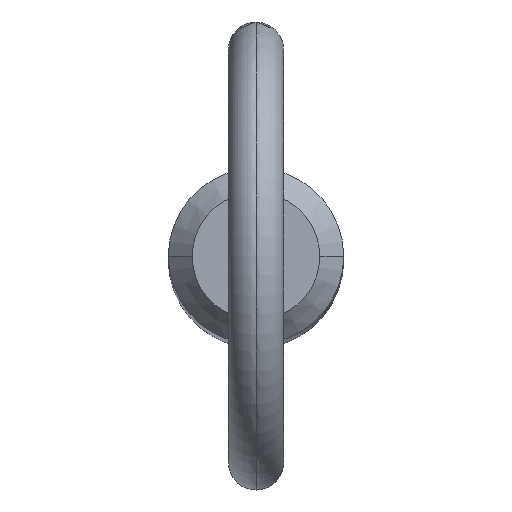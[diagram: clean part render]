
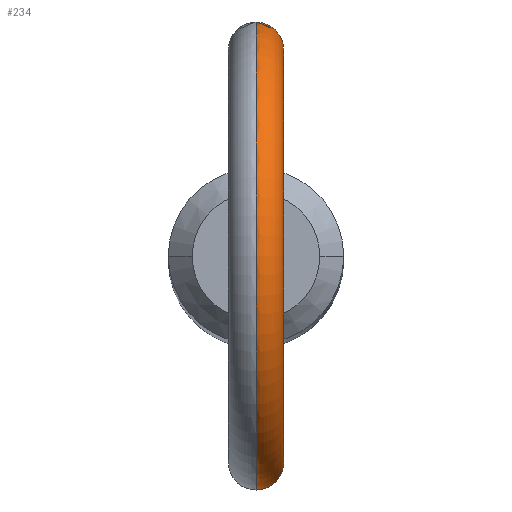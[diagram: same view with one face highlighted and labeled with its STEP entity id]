
A CAD part, top view. The second image highlights one B-rep face of the part: STEP entity #234.
In plain terms, the highlighted toroidal (fillet/blend) face has major radius 11.2 mm and minor radius 1.5 mm.
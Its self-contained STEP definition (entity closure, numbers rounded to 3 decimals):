
#7 = CARTESIAN_POINT ( 'NONE',  ( 0.97, -4.662, 113.05 ) ) ;
#21 = CARTESIAN_POINT ( 'NONE',  ( 0., 0., 124.5 ) ) ;
#25 = CARTESIAN_POINT ( 'NONE',  ( 0., 4.76, 112.726 ) ) ;
#26 = CARTESIAN_POINT ( 'NONE',  ( 1.239, 4.596, 113.359 ) ) ;
#30 = CARTESIAN_POINT ( 'NONE',  ( 0.687, -4.711, 115.835 ) ) ;
#31 = EDGE_LOOP ( 'NONE', ( #89, #154, #437, #41 ) ) ;
#32 = CARTESIAN_POINT ( 'NONE',  ( 0.409, -4.743, 115.978 ) ) ;
#39 = CARTESIAN_POINT ( 'NONE',  ( 1.24, -4.596, 113.36 ) ) ;
#41 = ORIENTED_EDGE ( 'NONE', *, *, #150, .F. ) ;
#53 = CARTESIAN_POINT ( 'NONE',  ( 0., 0., 124.5 ) ) ;
#58 = CARTESIAN_POINT ( 'NONE',  ( 1.478, -4.525, 114.552 ) ) ;
#64 = CARTESIAN_POINT ( 'NONE',  ( 1.293, -4.582, 115.142 ) ) ;
#66 = CARTESIAN_POINT ( 'NONE',  ( 1.404, -4.548, 114.853 ) ) ;
#85 = DIRECTION ( 'NONE',  ( 1., 0., 0. ) ) ;
#89 = ORIENTED_EDGE ( 'NONE', *, *, #356, .F. ) ;
#92 = CARTESIAN_POINT ( 'NONE',  ( 0., 0., 124.5 ) ) ;
#93 = CARTESIAN_POINT ( 'NONE',  ( 0., -4.76, 116.048 ) ) ;
#107 = CARTESIAN_POINT ( 'NONE',  ( 0.77, -4.698, 115.775 ) ) ;
#108 = CARTESIAN_POINT ( 'NONE',  ( 1.292, 4.582, 115.144 ) ) ;
#147 = AXIS2_PLACEMENT_3D ( 'NONE', #53, #85, #307 ) ;
#148 = CARTESIAN_POINT ( 'NONE',  ( 1.385, -4.554, 113.632 ) ) ;
#150 = EDGE_CURVE ( 'NONE', #390, #315, #160, .T. ) ;
#154 = ORIENTED_EDGE ( 'NONE', *, *, #198, .T. ) ;
#160 = CIRCLE ( 'NONE', #508, 9.7 ) ;
#172 = DIRECTION ( 'NONE',  ( 1., 0., 0. ) ) ;
#177 = VERTEX_POINT ( 'NONE', #431 ) ;
#178 = DIRECTION ( 'NONE',  ( 1., 0., 0. ) ) ;
#180 = CARTESIAN_POINT ( 'NONE',  ( 0., 4.76, 116.048 ) ) ;
#182 = B_SPLINE_CURVE_WITH_KNOTS ( 'NONE', 3,
 ( #25, #269, #488, #445, #229, #237, #476, #518, #26, #487, #353, #192, #189, #523, #434, #108, #364, #239, #526, #486, #406, #524, #443, #180 ),
 .UNSPECIFIED., .F., .F.,
 ( 4, 2, 2, 2, 2, 2, 2, 2, 2, 2, 2, 4 ),
 ( 0.001, 0.001, 0.001, 0.002, 0.002, 0.002, 0.003, 0.004, 0.004, 0.005, 0.005, 0.006 ),
 .UNSPECIFIED. ) ;
#184 = CARTESIAN_POINT ( 'NONE',  ( 1.503, -4.517, 114.24 ) ) ;
#189 = CARTESIAN_POINT ( 'NONE',  ( 1.508, 4.515, 114.137 ) ) ;
#192 = CARTESIAN_POINT ( 'NONE',  ( 1.484, 4.523, 113.928 ) ) ;
#196 = CARTESIAN_POINT ( 'NONE',  ( 0.105, -4.76, 112.726 ) ) ;
#198 = EDGE_CURVE ( 'NONE', #273, #177, #266, .T. ) ;
#221 = DIRECTION ( 'NONE',  ( 0., 0., -1. ) ) ;
#223 = CARTESIAN_POINT ( 'NONE',  ( 0., 4.76, 112.726 ) ) ;
#229 = CARTESIAN_POINT ( 'NONE',  ( 0.511, 4.733, 112.808 ) ) ;
#234 = ADVANCED_FACE ( 'NONE', ( #472 ), #451, .T. ) ;
#237 = CARTESIAN_POINT ( 'NONE',  ( 0.795, 4.697, 112.928 ) ) ;
#239 = CARTESIAN_POINT ( 'NONE',  ( 0.996, 4.655, 115.566 ) ) ;
#266 = CIRCLE ( 'NONE', #147, 12.7 ) ;
#269 = CARTESIAN_POINT ( 'NONE',  ( 0.104, 4.76, 112.726 ) ) ;
#271 = CARTESIAN_POINT ( 'NONE',  ( 1.499, -4.518, 114.137 ) ) ;
#273 = VERTEX_POINT ( 'NONE', #223 ) ;
#281 = CARTESIAN_POINT ( 'NONE',  ( 0.104, -4.76, 116.048 ) ) ;
#282 = CARTESIAN_POINT ( 'NONE',  ( 0., -4.76, 116.048 ) ) ;
#288 = CARTESIAN_POINT ( 'NONE',  ( 0., -4.76, 112.726 ) ) ;
#307 = DIRECTION ( 'NONE',  ( 0., 0., -1. ) ) ;
#315 = VERTEX_POINT ( 'NONE', #93 ) ;
#316 = CARTESIAN_POINT ( 'NONE',  ( 1.434, -4.539, 114.754 ) ) ;
#321 = CARTESIAN_POINT ( 'NONE',  ( 0.506, -4.734, 115.937 ) ) ;
#324 = CARTESIAN_POINT ( 'NONE',  ( 0.925, -4.67, 115.639 ) ) ;
#326 = CARTESIAN_POINT ( 'NONE',  ( 0.411, -4.743, 112.777 ) ) ;
#329 = AXIS2_PLACEMENT_3D ( 'NONE', #92, #178, #470 ) ;
#331 = CARTESIAN_POINT ( 'NONE',  ( 0.208, -4.757, 112.736 ) ) ;
#346 = B_SPLINE_CURVE_WITH_KNOTS ( 'NONE', 3,
 ( #282, #281, #363, #32, #321, #30, #107, #324, #407, #516, #64, #66, #316, #58, #395, #184, #271, #358, #405, #148, #494, #39, #446, #7, #454, #410, #326, #331, #196, #288 ),
 .UNSPECIFIED., .F., .F.,
 ( 4, 2, 2, 2, 2, 2, 2, 2, 2, 2, 2, 2, 2, 2, 4 ),
 ( 0.004, 0.005, 0.005, 0.005, 0.006, 0.006, 0.007, 0.007, 0.007, 0.007, 0.008, 0.008, 0.009, 0.009, 0.009 ),
 .UNSPECIFIED. ) ;
#353 = CARTESIAN_POINT ( 'NONE',  ( 1.385, 4.554, 113.63 ) ) ;
#356 = EDGE_CURVE ( 'NONE', #273, #390, #182, .T. ) ;
#358 = CARTESIAN_POINT ( 'NONE',  ( 1.473, -4.526, 113.931 ) ) ;
#362 = CARTESIAN_POINT ( 'NONE',  ( 0., 4.76, 116.048 ) ) ;
#363 = CARTESIAN_POINT ( 'NONE',  ( 0.209, -4.756, 116.034 ) ) ;
#364 = CARTESIAN_POINT ( 'NONE',  ( 1.188, 4.611, 115.327 ) ) ;
#390 = VERTEX_POINT ( 'NONE', #362 ) ;
#395 = CARTESIAN_POINT ( 'NONE',  ( 1.492, -4.52, 114.448 ) ) ;
#405 = CARTESIAN_POINT ( 'NONE',  ( 1.45, -4.534, 113.828 ) ) ;
#406 = CARTESIAN_POINT ( 'NONE',  ( 0.685, 4.711, 115.836 ) ) ;
#407 = CARTESIAN_POINT ( 'NONE',  ( 0.997, -4.655, 115.564 ) ) ;
#410 = CARTESIAN_POINT ( 'NONE',  ( 0.512, -4.733, 112.808 ) ) ;
#413 = EDGE_CURVE ( 'NONE', #315, #177, #346, .T. ) ;
#431 = CARTESIAN_POINT ( 'NONE',  ( 0., -4.76, 112.726 ) ) ;
#434 = CARTESIAN_POINT ( 'NONE',  ( 1.441, 4.537, 114.759 ) ) ;
#437 = ORIENTED_EDGE ( 'NONE', *, *, #413, .F. ) ;
#443 = CARTESIAN_POINT ( 'NONE',  ( 0.208, 4.76, 116.048 ) ) ;
#445 = CARTESIAN_POINT ( 'NONE',  ( 0.411, 4.743, 112.777 ) ) ;
#446 = CARTESIAN_POINT ( 'NONE',  ( 1.178, -4.613, 113.276 ) ) ;
#451 = TOROIDAL_SURFACE ( 'NONE', #329, 11.2, 1.5 ) ;
#454 = CARTESIAN_POINT ( 'NONE',  ( 0.797, -4.697, 112.929 ) ) ;
#470 = DIRECTION ( 'NONE',  ( 0., 0., -1. ) ) ;
#472 = FACE_OUTER_BOUND ( 'NONE', #31, .T. ) ;
#476 = CARTESIAN_POINT ( 'NONE',  ( 0.968, 4.663, 113.049 ) ) ;
#486 = CARTESIAN_POINT ( 'NONE',  ( 0.771, 4.698, 115.775 ) ) ;
#487 = CARTESIAN_POINT ( 'NONE',  ( 1.343, 4.567, 113.537 ) ) ;
#488 = CARTESIAN_POINT ( 'NONE',  ( 0.207, 4.757, 112.736 ) ) ;
#494 = CARTESIAN_POINT ( 'NONE',  ( 1.344, -4.567, 113.539 ) ) ;
#508 = AXIS2_PLACEMENT_3D ( 'NONE', #21, #172, #221 ) ;
#516 = CARTESIAN_POINT ( 'NONE',  ( 1.19, -4.611, 115.324 ) ) ;
#518 = CARTESIAN_POINT ( 'NONE',  ( 1.177, 4.613, 113.275 ) ) ;
#523 = CARTESIAN_POINT ( 'NONE',  ( 1.487, 4.522, 114.553 ) ) ;
#524 = CARTESIAN_POINT ( 'NONE',  ( 0.415, 4.745, 115.988 ) ) ;
#526 = CARTESIAN_POINT ( 'NONE',  ( 0.925, 4.67, 115.64 ) ) ;
